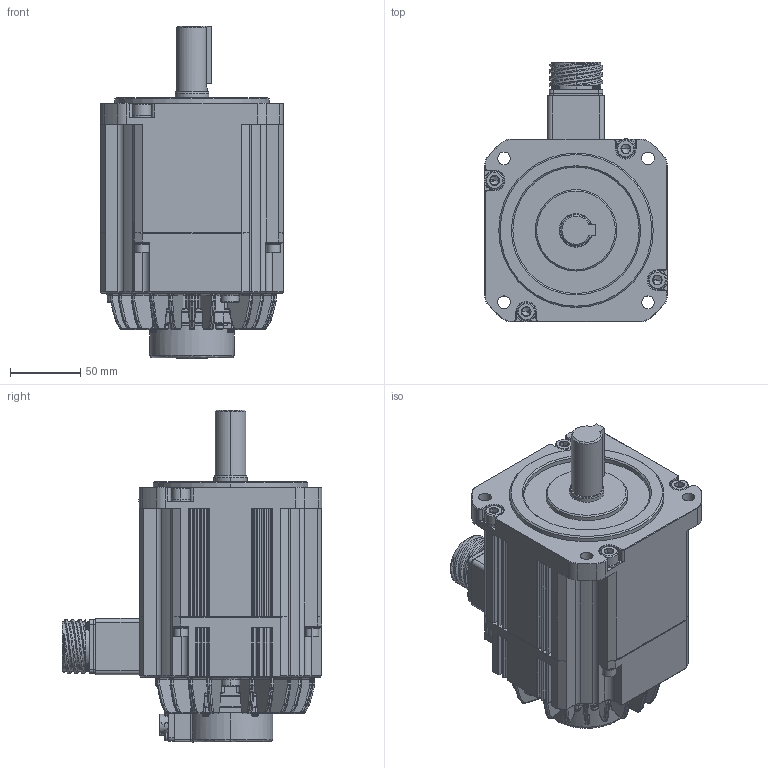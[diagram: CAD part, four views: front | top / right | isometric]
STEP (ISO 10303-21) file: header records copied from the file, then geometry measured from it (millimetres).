
FILE_DESCRIPTION (( 'STEP AP203' ), '1' );
FILE_NAME ('TSM3565N7373E721‘•”z.STEP', '2018-06-25T03:48:14', ( '' ), ( '' ), 'SwSTEP 2.0', 'SolidWorks 2017', '' );
FILE_SCHEMA (( 'CONFIG_CONTROL_DESIGN' ));
Products named in the file (2): Part36^TSM3565N7373E721装配; TSM3565N7373E721装配
Assembly tree (1 placements, depth 2):
  TSM3565N7373E721装配
    Part36^TSM3565N7373E721装配
Bounding box: 130.5 x 185.2 x 236.5 mm (x, y, z)
Volume: 2279370.1 mm3; surface area: 170598.1 mm2
Topology: 1 solids, 25 shells, 3264 faces, 8258 edges, 5039 vertices
Faces by surface type: plane 1063, cylinder 1033, bspline 904, cone 264
Entity records: 162120 total; most frequent: CARTESIAN_POINT 91476, ORIENTED_EDGE 16288, DIRECTION 12220, EDGE_CURVE 8144, VERTEX_POINT 5039, AXIS2_PLACEMENT_3D 4250, VECTOR 3720, LINE 3720
